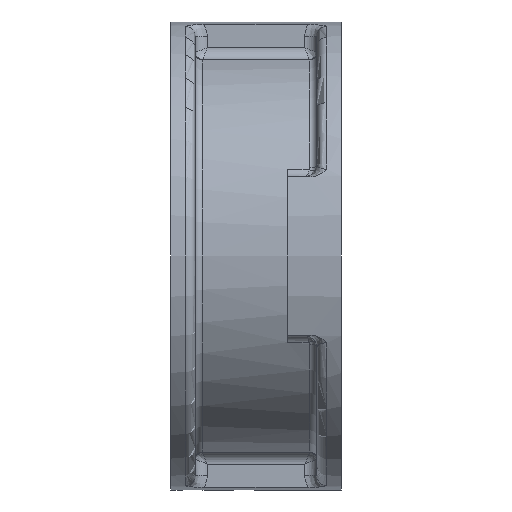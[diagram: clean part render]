
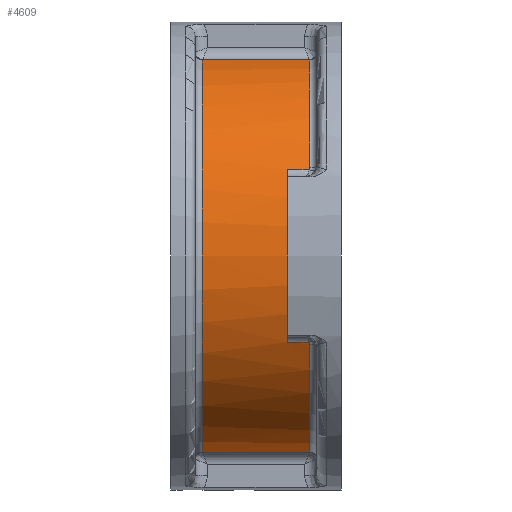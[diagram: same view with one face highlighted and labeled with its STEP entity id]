
A CAD part, left-side view. The second image highlights one B-rep face of the part: STEP entity #4609.
In plain terms, the highlighted cylindrical face has radius 82.5 mm (diameter 165 mm), a partial arc.
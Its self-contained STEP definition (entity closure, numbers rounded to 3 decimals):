
#22 = ORIENTED_EDGE ( 'NONE', *, *, #9142, .T. ) ;
#103 = EDGE_CURVE ( 'NONE', #6251, #8206, #1614, .T. ) ;
#285 = VERTEX_POINT ( 'NONE', #7152 ) ;
#453 = EDGE_CURVE ( 'NONE', #5323, #2587, #5155, .T. ) ;
#483 = ORIENTED_EDGE ( 'NONE', *, *, #4498, .T. ) ;
#524 = EDGE_CURVE ( 'NONE', #8206, #285, #6763, .T. ) ;
#719 = LINE ( 'NONE', #4230, #9324 ) ;
#848 = CARTESIAN_POINT ( 'NONE',  ( 3480.446, 1431.848, 80.437 ) ) ;
#852 = ORIENTED_EDGE ( 'NONE', *, *, #2326, .T. ) ;
#890 = DIRECTION ( 'NONE',  ( 0., 0., 1. ) ) ;
#1003 = CARTESIAN_POINT ( 'NONE',  ( 3480.865, 1492.39, -80.532 ) ) ;
#1004 = ORIENTED_EDGE ( 'NONE', *, *, #103, .T. ) ;
#1120 = DIRECTION ( 'NONE',  ( 0., -1., 0. ) ) ;
#1147 = CARTESIAN_POINT ( 'NONE',  ( 3480.865, 1475.8, 80.532 ) ) ;
#1360 = VERTEX_POINT ( 'NONE', #9257 ) ;
#1469 = CIRCLE ( 'NONE', #10542, 82.5 ) ;
#1473 = CARTESIAN_POINT ( 'NONE',  ( 3480.446, 1475.848, -80.437 ) ) ;
#1528 = AXIS2_PLACEMENT_3D ( 'NONE', #2528, #5832, #3331 ) ;
#1614 = LINE ( 'NONE', #4654, #7081 ) ;
#1622 = VECTOR ( 'NONE', #1120, 1000. ) ;
#1656 = AXIS2_PLACEMENT_3D ( 'NONE', #2593, #8317, #8423 ) ;
#1818 = CARTESIAN_POINT ( 'NONE',  ( 3480.727, 1431.864, 80.501 ) ) ;
#1831 = DIRECTION ( 'NONE',  ( 0., 1., 0. ) ) ;
#1962 = VERTEX_POINT ( 'NONE', #9705 ) ;
#2119 = CARTESIAN_POINT ( 'NONE',  ( 3424.24, 1440.848, 35.357 ) ) ;
#2150 = B_SPLINE_CURVE_WITH_KNOTS ( 'NONE', 3,
 ( #8202, #2448, #10684, #9949 ),
 .UNSPECIFIED., .F., .F.,
 ( 4, 4 ),
 ( 0., 0. ),
 .UNSPECIFIED. ) ;
#2181 = DIRECTION ( 'NONE',  ( 0., -1., 0. ) ) ;
#2326 = EDGE_CURVE ( 'NONE', #285, #5323, #1469, .T. ) ;
#2448 = CARTESIAN_POINT ( 'NONE',  ( 3480.587, 1475.848, -80.469 ) ) ;
#2528 = CARTESIAN_POINT ( 'NONE',  ( 3498.779, 1492.39, 0. ) ) ;
#2587 = VERTEX_POINT ( 'NONE', #9747 ) ;
#2593 = CARTESIAN_POINT ( 'NONE',  ( 3498.779, 1475.848, 0. ) ) ;
#2634 = ORIENTED_EDGE ( 'NONE', *, *, #7888, .F. ) ;
#2774 = ORIENTED_EDGE ( 'NONE', *, *, #10434, .T. ) ;
#2799 = DIRECTION ( 'NONE',  ( 0., 0., 1. ) ) ;
#2819 = CARTESIAN_POINT ( 'NONE',  ( 3480.727, 1475.832, 80.501 ) ) ;
#2824 = CARTESIAN_POINT ( 'NONE',  ( 3424.568, 1431.848, -36.042 ) ) ;
#2850 = VERTEX_POINT ( 'NONE', #10207 ) ;
#2993 = LINE ( 'NONE', #7564, #3120 ) ;
#3120 = VECTOR ( 'NONE', #1831, 1000. ) ;
#3175 = ORIENTED_EDGE ( 'NONE', *, *, #7671, .T. ) ;
#3331 = DIRECTION ( 'NONE',  ( 0., 0., 1. ) ) ;
#3543 = ORIENTED_EDGE ( 'NONE', *, *, #524, .T. ) ;
#3615 = CARTESIAN_POINT ( 'NONE',  ( 3480.865, 1475.8, 80.532 ) ) ;
#3642 = CARTESIAN_POINT ( 'NONE',  ( 3480.587, 1475.848, 80.469 ) ) ;
#3684 = CARTESIAN_POINT ( 'NONE',  ( 3424.638, 1431.848, -36.184 ) ) ;
#3694 = LINE ( 'NONE', #1003, #1622 ) ;
#3698 = CARTESIAN_POINT ( 'NONE',  ( 3424.5, 1431.864, 35.901 ) ) ;
#3807 = B_SPLINE_CURVE_WITH_KNOTS ( 'NONE', 3,
 ( #3684, #2824, #5355, #5393, #7838, #7807 ),
 .UNSPECIFIED., .F., .F.,
 ( 4, 2, 4 ),
 ( 0., 0., 0.001 ),
 .UNSPECIFIED. ) ;
#3873 = ORIENTED_EDGE ( 'NONE', *, *, #10030, .T. ) ;
#4049 = ORIENTED_EDGE ( 'NONE', *, *, #7478, .T. ) ;
#4230 = CARTESIAN_POINT ( 'NONE',  ( 3424.24, 1492.39, -35.357 ) ) ;
#4268 = CARTESIAN_POINT ( 'NONE',  ( 3480.446, 1431.848, 80.437 ) ) ;
#4280 = EDGE_CURVE ( 'NONE', #2850, #5185, #3694, .T. ) ;
#4341 = B_SPLINE_CURVE_WITH_KNOTS ( 'NONE', 3,
 ( #1147, #2819, #3642, #8574 ),
 .UNSPECIFIED., .F., .F.,
 ( 4, 4 ),
 ( 0., 0. ),
 .UNSPECIFIED. ) ;
#4376 = VERTEX_POINT ( 'NONE', #9567 ) ;
#4489 = DIRECTION ( 'NONE',  ( 0., -1., 0. ) ) ;
#4498 = EDGE_CURVE ( 'NONE', #6204, #4376, #4341, .T. ) ;
#4502 = CARTESIAN_POINT ( 'NONE',  ( 3424.24, 1432.041, 35.357 ) ) ;
#4518 = ORIENTED_EDGE ( 'NONE', *, *, #4280, .T. ) ;
#4557 = CARTESIAN_POINT ( 'NONE',  ( 3424.302, 1431.976, 35.488 ) ) ;
#4609 = ADVANCED_FACE ( 'NONE', ( #6571 ), #9316, .T. ) ;
#4654 = CARTESIAN_POINT ( 'NONE',  ( 3424.24, 1492.39, 35.357 ) ) ;
#4928 = B_SPLINE_CURVE_WITH_KNOTS ( 'NONE', 3,
 ( #5543, #5505, #6374, #6305 ),
 .UNSPECIFIED., .F., .F.,
 ( 4, 4 ),
 ( 0., 0. ),
 .UNSPECIFIED. ) ;
#5089 = DIRECTION ( 'NONE',  ( 0., 1., 0. ) ) ;
#5155 = B_SPLINE_CURVE_WITH_KNOTS ( 'NONE', 3,
 ( #4268, #8559, #1818, #9331 ),
 .UNSPECIFIED., .F., .F.,
 ( 4, 4 ),
 ( 0., 0. ),
 .UNSPECIFIED. ) ;
#5185 = VERTEX_POINT ( 'NONE', #10558 ) ;
#5234 = AXIS2_PLACEMENT_3D ( 'NONE', #9011, #5089, #890 ) ;
#5242 = CARTESIAN_POINT ( 'NONE',  ( 3424.638, 1431.848, -36.184 ) ) ;
#5291 = DIRECTION ( 'NONE',  ( 0., 0., 1. ) ) ;
#5299 = CARTESIAN_POINT ( 'NONE',  ( 3424.568, 1431.848, 36.042 ) ) ;
#5320 = CARTESIAN_POINT ( 'NONE',  ( 3424.24, 1440.848, -35.357 ) ) ;
#5323 = VERTEX_POINT ( 'NONE', #848 ) ;
#5355 = CARTESIAN_POINT ( 'NONE',  ( 3424.5, 1431.864, -35.901 ) ) ;
#5393 = CARTESIAN_POINT ( 'NONE',  ( 3424.367, 1431.928, -35.625 ) ) ;
#5405 = CARTESIAN_POINT ( 'NONE',  ( 3424.638, 1431.848, 36.184 ) ) ;
#5505 = CARTESIAN_POINT ( 'NONE',  ( 3480.727, 1431.864, -80.501 ) ) ;
#5543 = CARTESIAN_POINT ( 'NONE',  ( 3480.865, 1431.895, -80.532 ) ) ;
#5784 = VERTEX_POINT ( 'NONE', #1473 ) ;
#5832 = DIRECTION ( 'NONE',  ( 0., 1., 0. ) ) ;
#5914 = EDGE_LOOP ( 'NONE', ( #1004, #3543, #852, #10798, #3175, #483, #10405, #4049, #4518, #22, #2774, #6536, #3873, #2634 ) ) ;
#6137 = DIRECTION ( 'NONE',  ( 0., 1., 0. ) ) ;
#6188 = EDGE_CURVE ( 'NONE', #9477, #1962, #3807, .T. ) ;
#6204 = VERTEX_POINT ( 'NONE', #3615 ) ;
#6251 = VERTEX_POINT ( 'NONE', #2119 ) ;
#6305 = CARTESIAN_POINT ( 'NONE',  ( 3480.446, 1431.848, -80.437 ) ) ;
#6374 = CARTESIAN_POINT ( 'NONE',  ( 3480.587, 1431.848, -80.469 ) ) ;
#6536 = ORIENTED_EDGE ( 'NONE', *, *, #6188, .T. ) ;
#6571 = FACE_OUTER_BOUND ( 'NONE', #5914, .T. ) ;
#6763 = B_SPLINE_CURVE_WITH_KNOTS ( 'NONE', 3,
 ( #7854, #4557, #8768, #3698, #5299, #5405 ),
 .UNSPECIFIED., .F., .F.,
 ( 4, 2, 4 ),
 ( 0., 0., 0.001 ),
 .UNSPECIFIED. ) ;
#6830 = DIRECTION ( 'NONE',  ( 0., 1., 0. ) ) ;
#7081 = VECTOR ( 'NONE', #2181, 1000. ) ;
#7152 = CARTESIAN_POINT ( 'NONE',  ( 3424.638, 1431.848, 36.184 ) ) ;
#7191 = EDGE_CURVE ( 'NONE', #5784, #4376, #10426, .T. ) ;
#7386 = VERTEX_POINT ( 'NONE', #5320 ) ;
#7478 = EDGE_CURVE ( 'NONE', #5784, #2850, #2150, .T. ) ;
#7564 = CARTESIAN_POINT ( 'NONE',  ( 3480.865, 1492.39, 80.532 ) ) ;
#7671 = EDGE_CURVE ( 'NONE', #2587, #6204, #2993, .T. ) ;
#7778 = CARTESIAN_POINT ( 'NONE',  ( 3498.779, 1440.848, 0. ) ) ;
#7807 = CARTESIAN_POINT ( 'NONE',  ( 3424.24, 1432.041, -35.357 ) ) ;
#7838 = CARTESIAN_POINT ( 'NONE',  ( 3424.302, 1431.976, -35.488 ) ) ;
#7854 = CARTESIAN_POINT ( 'NONE',  ( 3424.24, 1432.041, 35.357 ) ) ;
#7888 = EDGE_CURVE ( 'NONE', #6251, #7386, #9250, .T. ) ;
#8202 = CARTESIAN_POINT ( 'NONE',  ( 3480.446, 1475.848, -80.437 ) ) ;
#8206 = VERTEX_POINT ( 'NONE', #4502 ) ;
#8317 = DIRECTION ( 'NONE',  ( 0., 1., 0. ) ) ;
#8423 = DIRECTION ( 'NONE',  ( 0., 0., 1. ) ) ;
#8559 = CARTESIAN_POINT ( 'NONE',  ( 3480.587, 1431.848, 80.469 ) ) ;
#8574 = CARTESIAN_POINT ( 'NONE',  ( 3480.446, 1475.848, 80.437 ) ) ;
#8750 = CARTESIAN_POINT ( 'NONE',  ( 3498.779, 1431.848, 0. ) ) ;
#8768 = CARTESIAN_POINT ( 'NONE',  ( 3424.367, 1431.928, 35.625 ) ) ;
#8799 = CIRCLE ( 'NONE', #5234, 82.5 ) ;
#9011 = CARTESIAN_POINT ( 'NONE',  ( 3498.779, 1431.848, 0. ) ) ;
#9142 = EDGE_CURVE ( 'NONE', #5185, #1360, #4928, .T. ) ;
#9250 = CIRCLE ( 'NONE', #10074, 82.5 ) ;
#9257 = CARTESIAN_POINT ( 'NONE',  ( 3480.446, 1431.848, -80.437 ) ) ;
#9316 = CYLINDRICAL_SURFACE ( 'NONE', #1528, 82.5 ) ;
#9324 = VECTOR ( 'NONE', #6830, 1000. ) ;
#9331 = CARTESIAN_POINT ( 'NONE',  ( 3480.865, 1431.895, 80.532 ) ) ;
#9477 = VERTEX_POINT ( 'NONE', #5242 ) ;
#9567 = CARTESIAN_POINT ( 'NONE',  ( 3480.446, 1475.848, 80.437 ) ) ;
#9705 = CARTESIAN_POINT ( 'NONE',  ( 3424.24, 1432.041, -35.357 ) ) ;
#9747 = CARTESIAN_POINT ( 'NONE',  ( 3480.865, 1431.895, 80.532 ) ) ;
#9949 = CARTESIAN_POINT ( 'NONE',  ( 3480.865, 1475.8, -80.532 ) ) ;
#10030 = EDGE_CURVE ( 'NONE', #1962, #7386, #719, .T. ) ;
#10074 = AXIS2_PLACEMENT_3D ( 'NONE', #7778, #4489, #2799 ) ;
#10207 = CARTESIAN_POINT ( 'NONE',  ( 3480.865, 1475.8, -80.532 ) ) ;
#10405 = ORIENTED_EDGE ( 'NONE', *, *, #7191, .F. ) ;
#10426 = CIRCLE ( 'NONE', #1656, 82.5 ) ;
#10434 = EDGE_CURVE ( 'NONE', #1360, #9477, #8799, .T. ) ;
#10542 = AXIS2_PLACEMENT_3D ( 'NONE', #8750, #6137, #5291 ) ;
#10558 = CARTESIAN_POINT ( 'NONE',  ( 3480.865, 1431.895, -80.532 ) ) ;
#10684 = CARTESIAN_POINT ( 'NONE',  ( 3480.727, 1475.832, -80.501 ) ) ;
#10798 = ORIENTED_EDGE ( 'NONE', *, *, #453, .T. ) ;
